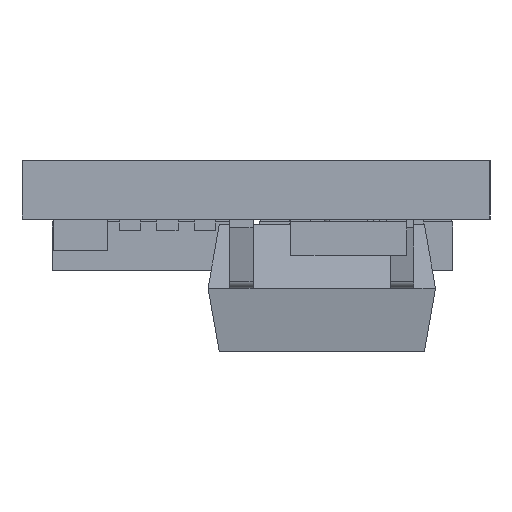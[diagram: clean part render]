
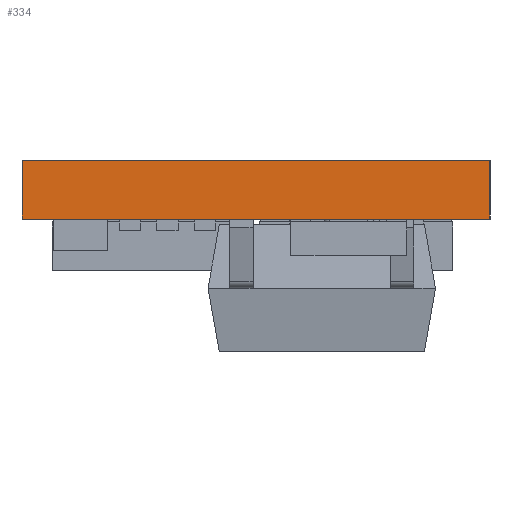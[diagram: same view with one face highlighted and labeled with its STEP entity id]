
A CAD part, left-side view. The second image highlights one B-rep face of the part: STEP entity #334.
In plain terms, the highlighted planar face has unit normal (-1, 0, 0).
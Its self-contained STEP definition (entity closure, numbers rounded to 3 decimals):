
#210 = LINE ( 'NONE', #35810, #30168 ) ;
#334 = ADVANCED_FACE ( 'NONE', ( #27407 ), #21532, .F. ) ;
#1509 = DIRECTION ( 'NONE',  ( 0., -1., 0. ) ) ;
#2616 = CARTESIAN_POINT ( 'NONE',  ( 0., 8.128, 1.016 ) ) ;
#3850 = CARTESIAN_POINT ( 'NONE',  ( 0., 0., 1.016 ) ) ;
#3878 = EDGE_CURVE ( 'NONE', #11310, #32203, #7002, .T. ) ;
#4079 = EDGE_CURVE ( 'NONE', #34339, #32203, #210, .T. ) ;
#4925 = DIRECTION ( 'NONE',  ( 0., 0., -1. ) ) ;
#5252 = ORIENTED_EDGE ( 'NONE', *, *, #3878, .T. ) ;
#5513 = EDGE_LOOP ( 'NONE', ( #5252, #33093, #28910, #8011 ) ) ;
#7002 = LINE ( 'NONE', #33234, #23925 ) ;
#8011 = ORIENTED_EDGE ( 'NONE', *, *, #29971, .T. ) ;
#8071 = CARTESIAN_POINT ( 'NONE',  ( 0., 8.128, 0. ) ) ;
#11310 = VERTEX_POINT ( 'NONE', #8071 ) ;
#11926 = DIRECTION ( 'NONE',  ( 0., 0., -1. ) ) ;
#12717 = CARTESIAN_POINT ( 'NONE',  ( 0., 0., 1.016 ) ) ;
#13474 = VECTOR ( 'NONE', #1509, 1000. ) ;
#15303 = DIRECTION ( 'NONE',  ( 0., -1., 0. ) ) ;
#18284 = DIRECTION ( 'NONE',  ( 1., 0., 0. ) ) ;
#19750 = LINE ( 'NONE', #27737, #13474 ) ;
#21532 = PLANE ( 'NONE',  #21631 ) ;
#21631 = AXIS2_PLACEMENT_3D ( 'NONE', #12717, #18284, #24365 ) ;
#23925 = VECTOR ( 'NONE', #15303, 1000. ) ;
#24365 = DIRECTION ( 'NONE',  ( 0., 0., -1. ) ) ;
#25406 = LINE ( 'NONE', #2616, #33620 ) ;
#25870 = CARTESIAN_POINT ( 'NONE',  ( 0., 0., 0. ) ) ;
#26206 = CARTESIAN_POINT ( 'NONE',  ( 0., 8.128, 1.016 ) ) ;
#27407 = FACE_OUTER_BOUND ( 'NONE', #5513, .T. ) ;
#27737 = CARTESIAN_POINT ( 'NONE',  ( 0., 0., 1.016 ) ) ;
#28910 = ORIENTED_EDGE ( 'NONE', *, *, #29352, .F. ) ;
#29352 = EDGE_CURVE ( 'NONE', #29904, #34339, #19750, .T. ) ;
#29904 = VERTEX_POINT ( 'NONE', #26206 ) ;
#29971 = EDGE_CURVE ( 'NONE', #29904, #11310, #25406, .T. ) ;
#30168 = VECTOR ( 'NONE', #11926, 1000. ) ;
#32203 = VERTEX_POINT ( 'NONE', #25870 ) ;
#33093 = ORIENTED_EDGE ( 'NONE', *, *, #4079, .F. ) ;
#33234 = CARTESIAN_POINT ( 'NONE',  ( 0., 0., 0. ) ) ;
#33620 = VECTOR ( 'NONE', #4925, 1000. ) ;
#34339 = VERTEX_POINT ( 'NONE', #3850 ) ;
#35810 = CARTESIAN_POINT ( 'NONE',  ( 0., 0., 1.016 ) ) ;
